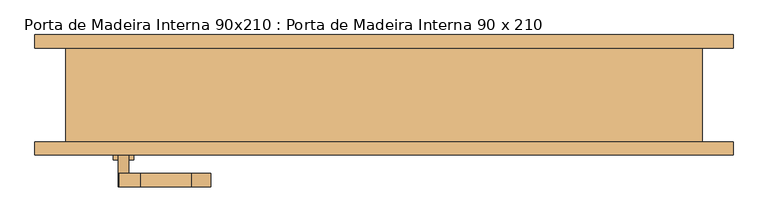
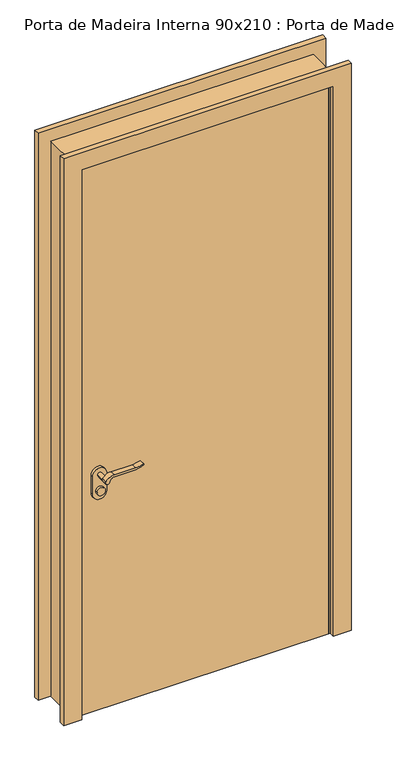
"""IFC4 building model written with IfcOpenShell, lengths in millimetres: door geometry, Porta de Madeira Interna 90x210 : Porta de Madeira Interna 90 x 210."""

from ifc_helpers import new_model, si_unit, point, frame, frame_2d, origin, origin_with_axes, place, context, project, spatial, polyline, circle_curve, trimmed, segment, composite_curve, outline, extrude, faceted_brep, source, transform, mapped, element, save


def porta_de_madeira_interna_90x210_porta_de_madeira_interna_90_f8e7363e(model_context):
    return source(origin(), model_context, "Body", "SolidModel", [
        extrude(outline(composite_curve([segment(trimmed(circle_curve(frame_2d((854.4, -389.0)), 15.0), [point((854.4, -374.0))], [point((854.4, -404.0))], False, "CARTESIAN"), True, "CONTINUOUS"), segment(trimmed(circle_curve(frame_2d((854.4, -389.0)), 15.0), [point((854.4, -404.0))], [point((854.4, -374.0))], False, "CARTESIAN"), True, "CONTINUOUS")], self_intersect=False)), frame((0.0, -13.975, 0.0), z_axis=(0.0, 1.0, 0.0), x_axis=(0.0, 0.0, 1.0)), (0.0, 0.0, 1.0), 10.0),
        extrude(outline(composite_curve([segment(trimmed(circle_curve(frame_2d((854.4, -389.0)), 15.0), [point((854.4, -374.0))], [point((854.4, -404.0))], False, "CARTESIAN"), True, "CONTINUOUS"), segment(trimmed(circle_curve(frame_2d((854.4, -389.0)), 15.0), [point((854.4, -404.0))], [point((854.4, -374.0))], False, "CARTESIAN"), True, "CONTINUOUS")], self_intersect=False)), frame((0.0, -93.975, 0.0), z_axis=(0.0, 1.0, 0.0), x_axis=(0.0, 0.0, 1.0)), (0.0, 0.0, 1.0), 10.0),
        extrude(outline(composite_curve([segment(trimmed(circle_curve(frame_2d((914.4, -389.0)), 8.0), [point((919.0523287, -395.5081363))], [point((914.4, -381.0))], False, "CARTESIAN"), True, "CONTINUOUS"), segment(trimmed(circle_curve(frame_2d((909.2738613, -363.6138099)), 18.1261387), [point((914.4, -381.0))], [point((927.4, -363.6138099))], True, "CARTESIAN"), True, "CONTINUOUS"), segment(polyline([(927.4, -363.6138099), (927.4, -287.3564091)]), True, "CONTINUOUS"), segment(trimmed(circle_curve(frame_2d((986.6709207, -290.9396612)), 59.3791355), [point((927.4, -287.3564091))], [point((936.6135558, -259.0))], False, "CARTESIAN"), True, "CONTINUOUS"), segment(polyline([(936.6135558, -259.0), (939.4, -259.0)]), True, "CONTINUOUS"), segment(trimmed(circle_curve(frame_2d((1017.6850638, -287.4227909)), 83.2850902), [point((939.4, -259.0))], [point((934.4, -287.3564091))], True, "CARTESIAN"), True, "CONTINUOUS"), segment(polyline([(934.4, -287.3564091), (934.4, -363.6325667)]), True, "CONTINUOUS"), segment(trimmed(circle_curve(frame_2d((897.1555521, -365.3324871)), 37.2832219), [point((934.4, -363.6325667))], [point((919.0523287, -395.5081363))], False, "CARTESIAN"), True, "CONTINUOUS")], self_intersect=False)), frame((0.0, 16.025, 0.0), z_axis=(0.0, 1.0, 0.0), x_axis=(0.0, 0.0, 1.0)), (0.0, 0.0, 1.0), 20.0),
        extrude(outline(composite_curve([segment(trimmed(circle_curve(frame_2d((909.2738682, -363.6138122)), 18.1261318), [point((914.3999903, -381.0))], [point((927.4, -363.6138122))], True, "CARTESIAN"), True, "CONTINUOUS"), segment(polyline([(927.4, -363.6138122), (927.4, -287.3564091)]), True, "CONTINUOUS"), segment(trimmed(circle_curve(frame_2d((986.6709207, -290.9396612)), 59.3791355), [point((927.4, -287.3564091))], [point((936.6135558, -259.0))], False, "CARTESIAN"), True, "CONTINUOUS"), segment(polyline([(936.6135558, -259.0), (939.4, -259.0)]), True, "CONTINUOUS"), segment(trimmed(circle_curve(frame_2d((1017.6850638, -287.4227909)), 83.2850902), [point((939.4, -259.0))], [point((934.4, -287.3564091))], True, "CARTESIAN"), True, "CONTINUOUS"), segment(polyline([(934.4, -287.3564091), (934.4, -363.6325667)]), True, "CONTINUOUS"), segment(trimmed(circle_curve(frame_2d((897.1555521, -365.3324871)), 37.2832219), [point((934.4, -363.6325667))], [point((919.0523287, -395.5081363))], False, "CARTESIAN"), True, "CONTINUOUS"), segment(trimmed(circle_curve(frame_2d((914.4, -389.0)), 8.0), [point((919.0523287, -395.5081363))], [point((914.3999903, -381.0))], False, "CARTESIAN"), True, "CONTINUOUS")], self_intersect=False)), frame((0.0, -133.975, 0.0), z_axis=(0.0, 1.0, 0.0), x_axis=(0.0, 0.0, 1.0)), (0.0, 0.0, 1.0), 20.0),
        extrude(outline(composite_curve([segment(trimmed(circle_curve(frame_2d((914.4, -389.0)), 8.0), [point((914.4, -381.0))], [point((914.4, -397.0))], False, "CARTESIAN"), True, "CONTINUOUS"), segment(trimmed(circle_curve(frame_2d((914.4, -389.0)), 8.0), [point((914.4, -397.0))], [point((914.4, -381.0))], False, "CARTESIAN"), True, "CONTINUOUS")], self_intersect=False)), frame((0.0, -13.975, 0.0), z_axis=(0.0, 1.0, 0.0), x_axis=(0.0, 0.0, 1.0)), (0.0, 0.0, 1.0), 30.0),
        extrude(outline(composite_curve([segment(trimmed(circle_curve(frame_2d((914.4, -389.0)), 8.0), [point((914.4, -381.0))], [point((914.4, -397.0))], False, "CARTESIAN"), True, "CONTINUOUS"), segment(trimmed(circle_curve(frame_2d((914.4, -389.0)), 8.0), [point((914.4, -397.0))], [point((914.4, -381.0))], False, "CARTESIAN"), True, "CONTINUOUS")], self_intersect=False)), frame((0.0, -113.975, 0.0), z_axis=(0.0, 1.0, 0.0), x_axis=(0.0, 0.0, 1.0)), (0.0, 0.0, 1.0), 30.0),
        extrude(outline(composite_curve([segment(trimmed(circle_curve(frame_2d((844.4, -389.0)), 25.0), [point((844.4, -414.0))], [point((844.4, -364.0))], False, "CARTESIAN"), True, "CONTINUOUS"), segment(polyline([(844.4, -364.0), (914.4, -364.0)]), True, "CONTINUOUS"), segment(trimmed(circle_curve(frame_2d((914.4, -389.0)), 25.0), [point((914.4, -364.0))], [point((914.4, -414.0))], False, "CARTESIAN"), True, "CONTINUOUS"), segment(polyline([(914.4, -414.0), (844.4, -414.0)]), True, "CONTINUOUS")], self_intersect=False)), frame((0.0, -23.975, 0.0), z_axis=(0.0, 1.0, 0.0), x_axis=(0.0, 0.0, 1.0)), (0.0, 0.0, 1.0), 10.0),
        extrude(outline(composite_curve([segment(trimmed(circle_curve(frame_2d((844.4, -389.0)), 25.0), [point((844.4, -414.0))], [point((844.4, -364.0))], False, "CARTESIAN"), True, "CONTINUOUS"), segment(polyline([(844.4, -364.0), (914.4, -364.0)]), True, "CONTINUOUS"), segment(trimmed(circle_curve(frame_2d((914.4, -389.0)), 25.0), [point((914.4, -364.0))], [point((914.4, -414.0))], False, "CARTESIAN"), True, "CONTINUOUS"), segment(polyline([(914.4, -414.0), (844.4, -414.0)]), True, "CONTINUOUS")], self_intersect=False)), frame((0.0, -83.975, 0.0), z_axis=(0.0, 1.0, 0.0), x_axis=(0.0, 0.0, 1.0)), (0.0, 0.0, 1.0), 10.0),
        extrude(outline(polyline([(450.0, -26.825), (450.0, -66.825), (-450.0, -66.825), (-450.0, -26.825), (450.0, -26.825)])), origin_with_axes(), (0.0, 0.0, 1.0), 2100.0),
        faceted_brep([(475.0, -66.825, 0.0), (450.0, -66.825, 0.0), (450.0, -26.825, 0.0), (437.3, -26.825, 0.0), (437.3, 8.1, 0.0), (450.0, 8.1, 0.0), (450.0, 73.175, 0.0), (475.0, 73.175, 0.0), (475.0, 73.175, 2125.0), (475.0, -66.825, 2125.0), (450.0, 73.175, 2100.0), (-450.0, 73.175, 2100.0), (-450.0, 73.175, 0.0), (-475.0, 73.175, 0.0), (-475.0, 73.175, 2125.0), (450.0, 8.1, 2100.0), (437.3, 8.1, 2087.3), (-437.3, 8.1, 2087.3), (-437.3, 8.1, 0.0), (-450.0, 8.1, 0.0), (-450.0, 8.1, 2100.0), (437.3, -26.825, 2087.3), (450.0, -26.825, 2100.0), (-450.0, -26.825, 2100.0), (-450.0, -26.825, 0.0), (-437.3, -26.825, 0.0), (-437.3, -26.825, 2087.3), (450.0, -66.825, 2100.0), (-475.0, -66.825, 2125.0), (-475.0, -66.825, 0.0), (-450.0, -66.825, 0.0), (-450.0, -66.825, 2100.0)], [[[0, 1, 2, 3, 4, 5, 6, 7]], [[7, 8, 9, 0]], [[6, 10, 11, 12, 13, 14, 8, 7]], [[5, 15, 10, 6]], [[4, 16, 17, 18, 19, 20, 15, 5]], [[3, 21, 16, 4]], [[2, 22, 23, 24, 25, 26, 21, 3]], [[1, 27, 22, 2]], [[0, 9, 28, 29, 30, 31, 27, 1]], [[8, 14, 28, 9]], [[15, 20, 11, 10]], [[21, 26, 17, 16]], [[27, 31, 23, 22]], [[29, 13, 12, 19, 18, 25, 24, 30]], [[14, 13, 29, 28]], [[20, 19, 12, 11]], [[26, 25, 18, 17]], [[31, 30, 24, 23]]]),
        extrude(outline(polyline([(0.0, 521.35), (2171.35, 521.35), (2171.35, -521.35), (0.0, -521.35), (0.0, -456.35), (2106.35, -456.35), (2106.35, 456.35), (0.0, 456.35), (0.0, 521.35)])), frame((0.0, 73.175, 0.0), z_axis=(0.0, 1.0, 0.0), x_axis=(0.0, 0.0, 1.0)), (0.0, 0.0, 1.0), 20.0),
        extrude(outline(polyline([(0.0, 521.35), (2171.35, 521.35), (2171.35, -521.35), (0.0, -521.35), (0.0, -456.35), (2106.35, -456.35), (2106.35, 456.35), (0.0, 456.35), (0.0, 521.35)])), frame((0.0, -86.825, 0.0), z_axis=(0.0, 1.0, 0.0), x_axis=(0.0, 0.0, 1.0)), (0.0, 0.0, 1.0), 20.0),
    ])


if __name__ == "__main__":
    model = new_model("IFC4")
    model_context = context("Model", 3, world=origin())
    ifc_project = project(units=[si_unit("LENGTHUNIT", "METRE", prefix="MILLI")], contexts=[model_context])
    site = spatial("IfcSite", under=ifc_project)
    building = spatial("IfcBuilding", under=site)
    placement = place(None, origin())
    porta_de_madeira_interna_90x210_porta_de_madeira_interna_90_shape = porta_de_madeira_interna_90x210_porta_de_madeira_interna_90_f8e7363e(model_context)
    element("IfcDoor", 1, ObjectType="Porta de Madeira Interna 90x210 : Porta de Madeira Interna 90 x 210", at=placement, inside=building, context=model_context, shape_type="MappedRepresentation", body=[
        mapped(porta_de_madeira_interna_90x210_porta_de_madeira_interna_90_shape, transform((0.0, 0.0, 0.0), x_axis=(1.0, 0.0, 0.0), y_axis=(0.0, 1.0, 0.0), z_axis=(0.0, 0.0, 1.0))),
    ])
    save(model, "model.ifc")
